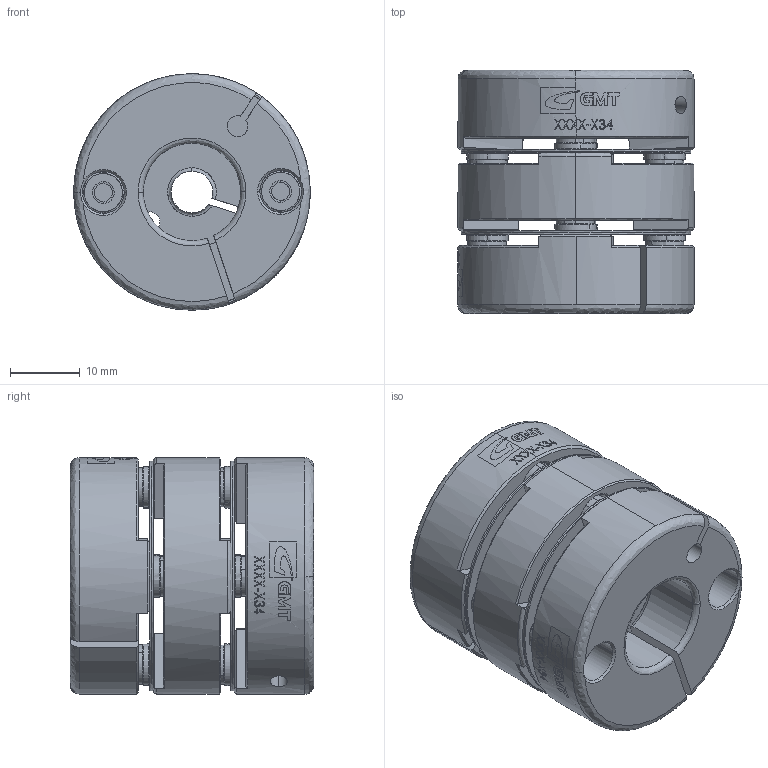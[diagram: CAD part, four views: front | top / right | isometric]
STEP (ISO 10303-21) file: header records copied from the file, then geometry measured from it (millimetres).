
FILE_DESCRIPTION (( 'STEP AP203' ), '1' );
FILE_NAME ('FACC-L34.STEP', '2008-04-04T05:57:17', ( '陳志豪' ), ( '高明鐵企業股份有限公司' ), 'SwSTEP 2.0', 'SolidWorks 2007', '' );
FILE_SCHEMA (( 'CONFIG_CONTROL_DESIGN' ));
Length unit declared in the file: millimetre
Products named in the file (1): FACC-L34
Bounding box: 34 x 35 x 34 mm (x, y, z)
Surface area: 13299.7 mm2 (no closed solid volume)
Topology: 0 solids, 11 shells, 460 faces, 1399 edges, 943 vertices
Faces by surface type: cylinder 158, cone 116, plane 94, bspline 92
Entity records: 23071 total; most frequent: CARTESIAN_POINT 12018, ORIENTED_EDGE 2635, DIRECTION 1651, EDGE_CURVE 1396, VERTEX_POINT 943, B_SPLINE_CURVE_WITH_KNOTS 748, AXIS2_PLACEMENT_3D 652, EDGE_LOOP 530
